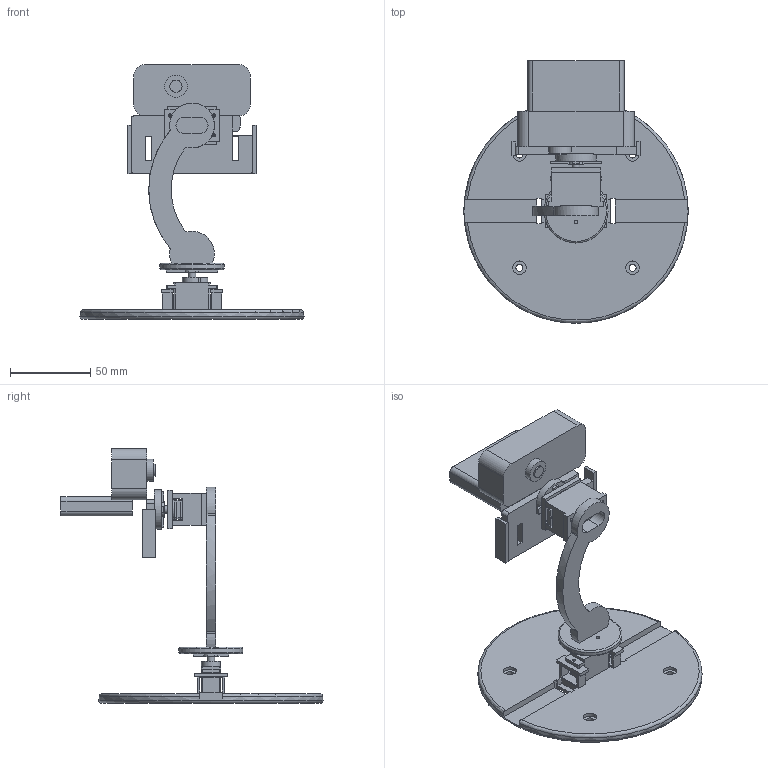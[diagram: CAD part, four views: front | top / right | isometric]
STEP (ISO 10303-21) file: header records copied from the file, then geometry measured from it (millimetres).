
FILE_DESCRIPTION(('Open CASCADE Model'),'2;1');
FILE_NAME('Open CASCADE Shape Model','2026-08-26T11:29:57',('Author'),( 'Open CASCADE'),'Open CASCADE STEP processor 7.9','Open CASCADE 7.9' ,'Unknown');
FILE_SCHEMA(('AUTOMOTIVE_DESIGN { 1 0 10303 214 1 1 1 1 }'));
Length unit declared in the file: millimetre
Products named in the file (11): C270_PanTilt_Full_Assembly_With_Servos; PanServo_StabilityBase; CurvedArm_SG90_TiltHolder; SG90_RetainingCap; Logitech_C270_ClipCradle; SG90_Pan_Body; SG90_Pan_Horn; SG90_Tilt_Body; SG90_Tilt_Horn; C270_Webcam_Body; C270_Fixed_Clip
Assembly tree (10 placements, depth 2):
  C270_PanTilt_Full_Assembly_With_Servos
    PanServo_StabilityBase
    CurvedArm_SG90_TiltHolder
    SG90_RetainingCap
    Logitech_C270_ClipCradle
    SG90_Pan_Body
    SG90_Pan_Horn
    SG90_Tilt_Body
    SG90_Tilt_Horn
    C270_Webcam_Body
    C270_Fixed_Clip
Bounding box: 140 x 163.64 x 158.91 mm (x, y, z)
Volume: 218671 mm3; surface area: 79567.2 mm2
Topology: 10 solids, 10 shells, 312 faces, 839 edges, 558 vertices
Faces by surface type: plane 209, cylinder 90, bspline 8, torus 5
Full cylindrical faces by diameter (mm): 1.9 x2, 2 x14, 2.2 x4, 2.3 x4, 3.2 x2, 4.4 x4, 4.7 x2, 7.6 x1, 8.4 x4, 9.6 x2, 14 x1, 21 x1, 25 x1, 40 x1, 140 x1
Entity records: 21732 total; most frequent: CARTESIAN_POINT 5034, DIRECTION 2917, ORIENTED_EDGE 1678, PCURVE 1678, DEFINITIONAL_REPRESENTATION 1678, LINE 1672, VECTOR 1672, EDGE_CURVE 839
